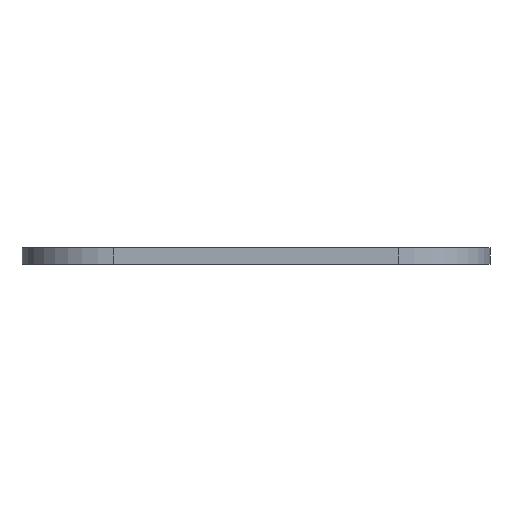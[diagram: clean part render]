
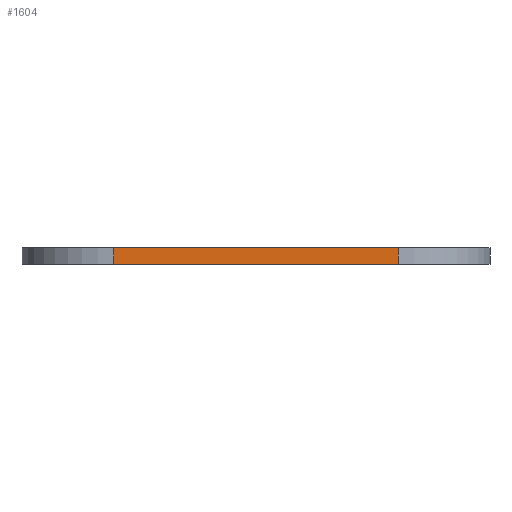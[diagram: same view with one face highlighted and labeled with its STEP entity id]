
A CAD part, left-side view. The second image highlights one B-rep face of the part: STEP entity #1604.
In plain terms, the highlighted planar face has unit normal (-1, 0, 0).
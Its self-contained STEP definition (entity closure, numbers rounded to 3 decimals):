
#44 = PLANE('',#45);
#45 = AXIS2_PLACEMENT_3D('',#46,#47,#48);
#46 = CARTESIAN_POINT('',(0.,0.,27.6));
#47 = DIRECTION('',(0.,0.,1.));
#48 = DIRECTION('',(1.,0.,-0.));
#72 = CYLINDRICAL_SURFACE('',#73,11.);
#73 = AXIS2_PLACEMENT_3D('',#74,#75,#76);
#74 = CARTESIAN_POINT('',(-17.,-17.,27.6));
#75 = DIRECTION('',(0.,0.,1.));
#76 = DIRECTION('',(0.,-1.,0.));
#100 = PLANE('',#101);
#101 = AXIS2_PLACEMENT_3D('',#102,#103,#104);
#102 = CARTESIAN_POINT('',(0.,0.,29.6));
#103 = DIRECTION('',(0.,0.,1.));
#104 = DIRECTION('',(1.,0.,-0.));
#140 = VERTEX_POINT('',#141);
#141 = CARTESIAN_POINT('',(-28.,-17.,27.6));
#490 = VERTEX_POINT('',#491);
#491 = CARTESIAN_POINT('',(-28.,17.,27.6));
#506 = CYLINDRICAL_SURFACE('',#507,11.);
#507 = AXIS2_PLACEMENT_3D('',#508,#509,#510);
#508 = CARTESIAN_POINT('',(-17.,17.,27.6));
#509 = DIRECTION('',(0.,0.,1.));
#510 = DIRECTION('',(-0.,1.,0.));
#518 = EDGE_CURVE('',#490,#140,#519,.T.);
#519 = SURFACE_CURVE('',#520,(#524,#531),.PCURVE_S1.);
#520 = LINE('',#521,#522);
#521 = CARTESIAN_POINT('',(-28.,28.,27.6));
#522 = VECTOR('',#523,1.);
#523 = DIRECTION('',(0.,-1.,0.));
#524 = PCURVE('',#44,#525);
#525 = DEFINITIONAL_REPRESENTATION('',(#526),#530);
#526 = LINE('',#527,#528);
#527 = CARTESIAN_POINT('',(-28.,28.));
#528 = VECTOR('',#529,1.);
#529 = DIRECTION('',(0.,-1.));
#530 = ( GEOMETRIC_REPRESENTATION_CONTEXT(2) 
PARAMETRIC_REPRESENTATION_CONTEXT() REPRESENTATION_CONTEXT('2D SPACE',''
  ) );
#531 = PCURVE('',#532,#537);
#532 = PLANE('',#533);
#533 = AXIS2_PLACEMENT_3D('',#534,#535,#536);
#534 = CARTESIAN_POINT('',(-28.,28.,27.6));
#535 = DIRECTION('',(1.,0.,-0.));
#536 = DIRECTION('',(0.,-1.,0.));
#537 = DEFINITIONAL_REPRESENTATION('',(#538),#542);
#538 = LINE('',#539,#540);
#539 = CARTESIAN_POINT('',(0.,0.));
#540 = VECTOR('',#541,1.);
#541 = DIRECTION('',(1.,0.));
#542 = ( GEOMETRIC_REPRESENTATION_CONTEXT(2) 
PARAMETRIC_REPRESENTATION_CONTEXT() REPRESENTATION_CONTEXT('2D SPACE',''
  ) );
#957 = VERTEX_POINT('',#958);
#958 = CARTESIAN_POINT('',(-28.,-17.,29.6));
#1232 = VERTEX_POINT('',#1233);
#1233 = CARTESIAN_POINT('',(-28.,17.,29.6));
#1255 = EDGE_CURVE('',#1232,#957,#1256,.T.);
#1256 = SURFACE_CURVE('',#1257,(#1261,#1268),.PCURVE_S1.);
#1257 = LINE('',#1258,#1259);
#1258 = CARTESIAN_POINT('',(-28.,28.,29.6));
#1259 = VECTOR('',#1260,1.);
#1260 = DIRECTION('',(0.,-1.,0.));
#1261 = PCURVE('',#100,#1262);
#1262 = DEFINITIONAL_REPRESENTATION('',(#1263),#1267);
#1263 = LINE('',#1264,#1265);
#1264 = CARTESIAN_POINT('',(-28.,28.));
#1265 = VECTOR('',#1266,1.);
#1266 = DIRECTION('',(0.,-1.));
#1267 = ( GEOMETRIC_REPRESENTATION_CONTEXT(2) 
PARAMETRIC_REPRESENTATION_CONTEXT() REPRESENTATION_CONTEXT('2D SPACE',''
  ) );
#1268 = PCURVE('',#532,#1269);
#1269 = DEFINITIONAL_REPRESENTATION('',(#1270),#1274);
#1270 = LINE('',#1271,#1272);
#1271 = CARTESIAN_POINT('',(0.,-2.));
#1272 = VECTOR('',#1273,1.);
#1273 = DIRECTION('',(1.,0.));
#1274 = ( GEOMETRIC_REPRESENTATION_CONTEXT(2) 
PARAMETRIC_REPRESENTATION_CONTEXT() REPRESENTATION_CONTEXT('2D SPACE',''
  ) );
#1582 = EDGE_CURVE('',#140,#957,#1583,.T.);
#1583 = SURFACE_CURVE('',#1584,(#1588,#1595),.PCURVE_S1.);
#1584 = LINE('',#1585,#1586);
#1585 = CARTESIAN_POINT('',(-28.,-17.,27.6));
#1586 = VECTOR('',#1587,1.);
#1587 = DIRECTION('',(0.,0.,1.));
#1588 = PCURVE('',#72,#1589);
#1589 = DEFINITIONAL_REPRESENTATION('',(#1590),#1594);
#1590 = LINE('',#1591,#1592);
#1591 = CARTESIAN_POINT('',(-1.571,0.));
#1592 = VECTOR('',#1593,1.);
#1593 = DIRECTION('',(-0.,1.));
#1594 = ( GEOMETRIC_REPRESENTATION_CONTEXT(2) 
PARAMETRIC_REPRESENTATION_CONTEXT() REPRESENTATION_CONTEXT('2D SPACE',''
  ) );
#1595 = PCURVE('',#532,#1596);
#1596 = DEFINITIONAL_REPRESENTATION('',(#1597),#1601);
#1597 = LINE('',#1598,#1599);
#1598 = CARTESIAN_POINT('',(45.,0.));
#1599 = VECTOR('',#1600,1.);
#1600 = DIRECTION('',(0.,-1.));
#1601 = ( GEOMETRIC_REPRESENTATION_CONTEXT(2) 
PARAMETRIC_REPRESENTATION_CONTEXT() REPRESENTATION_CONTEXT('2D SPACE',''
  ) );
#1604 = ADVANCED_FACE('',(#1605),#532,.F.);
#1605 = FACE_BOUND('',#1606,.F.);
#1606 = EDGE_LOOP('',(#1607,#1608,#1629,#1630));
#1607 = ORIENTED_EDGE('',*,*,#518,.F.);
#1608 = ORIENTED_EDGE('',*,*,#1609,.T.);
#1609 = EDGE_CURVE('',#490,#1232,#1610,.T.);
#1610 = SURFACE_CURVE('',#1611,(#1615,#1622),.PCURVE_S1.);
#1611 = LINE('',#1612,#1613);
#1612 = CARTESIAN_POINT('',(-28.,17.,27.6));
#1613 = VECTOR('',#1614,1.);
#1614 = DIRECTION('',(0.,0.,1.));
#1615 = PCURVE('',#532,#1616);
#1616 = DEFINITIONAL_REPRESENTATION('',(#1617),#1621);
#1617 = LINE('',#1618,#1619);
#1618 = CARTESIAN_POINT('',(11.,0.));
#1619 = VECTOR('',#1620,1.);
#1620 = DIRECTION('',(0.,-1.));
#1621 = ( GEOMETRIC_REPRESENTATION_CONTEXT(2) 
PARAMETRIC_REPRESENTATION_CONTEXT() REPRESENTATION_CONTEXT('2D SPACE',''
  ) );
#1622 = PCURVE('',#506,#1623);
#1623 = DEFINITIONAL_REPRESENTATION('',(#1624),#1628);
#1624 = LINE('',#1625,#1626);
#1625 = CARTESIAN_POINT('',(1.571,0.));
#1626 = VECTOR('',#1627,1.);
#1627 = DIRECTION('',(0.,1.));
#1628 = ( GEOMETRIC_REPRESENTATION_CONTEXT(2) 
PARAMETRIC_REPRESENTATION_CONTEXT() REPRESENTATION_CONTEXT('2D SPACE',''
  ) );
#1629 = ORIENTED_EDGE('',*,*,#1255,.T.);
#1630 = ORIENTED_EDGE('',*,*,#1582,.F.);
